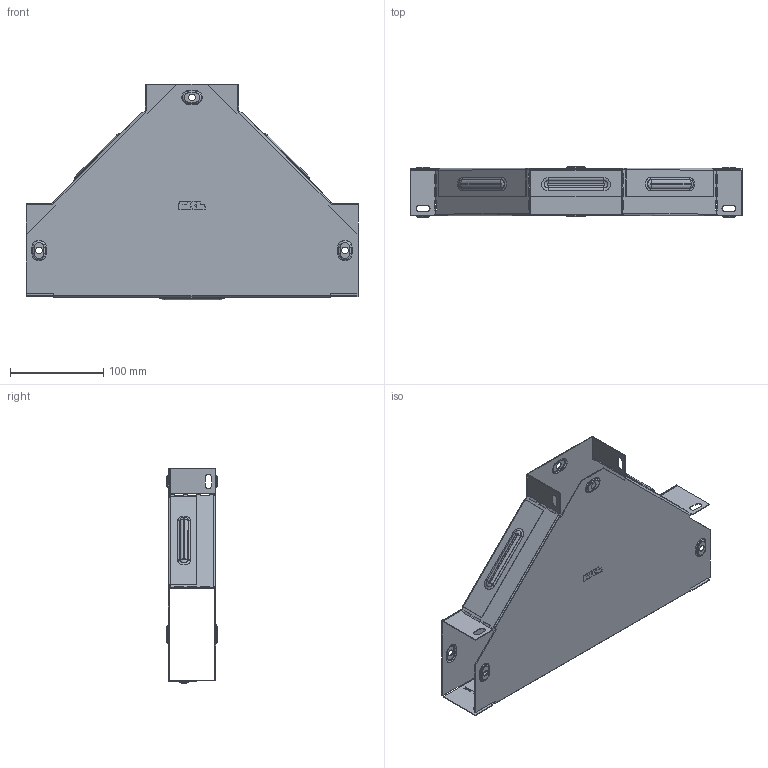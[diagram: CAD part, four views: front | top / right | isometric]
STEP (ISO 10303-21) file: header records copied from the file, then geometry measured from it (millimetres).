
FILE_DESCRIPTION (( 'STEP AP214' ), '1' );
FILE_NAME ('t5010008_捘.STEP', '2019-06-10T08:06:14', ( '砐錪賧瘔蠈錪 Windows' ), ( '' ), 'SwSTEP 2.0', 'SolidWorks 2018', '' );
FILE_SCHEMA (( 'AUTOMOTIVE_DESIGN' ));
Length unit declared in the file: millimetre
Products named in the file (1): t5010008_捘
Bounding box: 356.4 x 53.8 x 231 mm (x, y, z)
Volume: 133095 mm3; surface area: 335710.5 mm2
Topology: 2 solids, 2 shells, 626 faces, 1722 edges, 1112 vertices
Faces by surface type: plane 334, cylinder 178, torus 96, bspline 18
Entity records: 20939 total; most frequent: CARTESIAN_POINT 4541, ORIENTED_EDGE 3444, DIRECTION 3404, EDGE_CURVE 1722, LINE 1186, VECTOR 1186, VERTEX_POINT 1112, AXIS2_PLACEMENT_3D 1109
